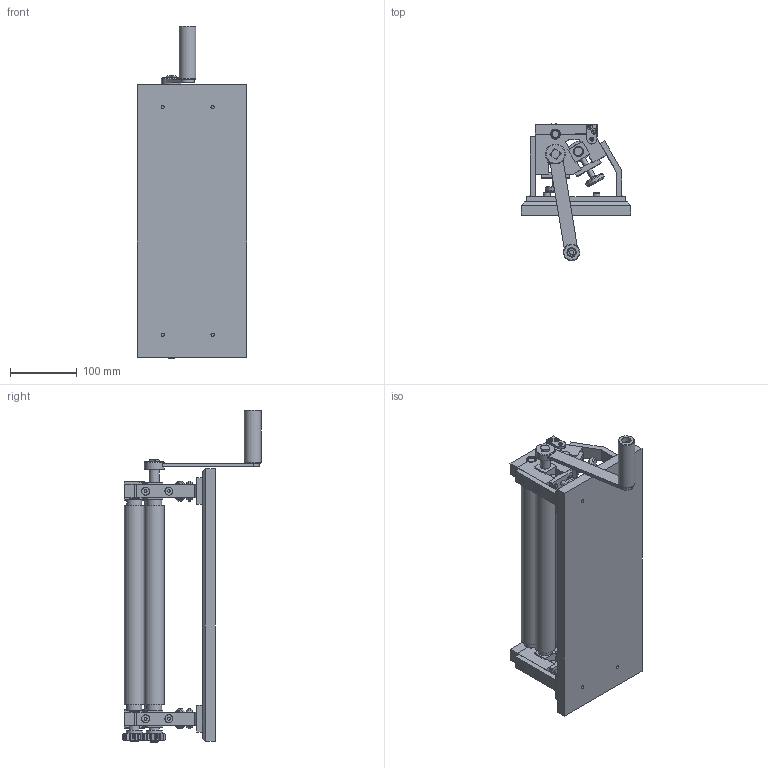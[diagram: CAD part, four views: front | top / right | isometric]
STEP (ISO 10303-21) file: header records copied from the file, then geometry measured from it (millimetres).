
FILE_DESCRIPTION(/* description */ ('PLATE ROLLING MACHINE'),/* implementation_level */ '2;1');
FILE_NAME(/* name */ 'C:\Users\Apardo\Documents\Proyectos\Dietrich\Proyecto 1\PLATE ROLLING MACHINE\STEP\A1 PLATE ROLLING MACHINE.stp',/* time_stamp */ '2020-11-03T20:46:37-04:00',/* author */ ('Apardo'),/* organization */ ('1'),/* preprocessor_version */ 'ST-DEVELOPER v18',/* originating_system */ 'Autodesk Inventor 2020',/* authorisation */ '');
FILE_SCHEMA (('AUTOMOTIVE_DESIGN { 1 0 10303 214 3 1 1 }'));
Length unit declared in the file: millimetre
Products named in the file (31): PLATE ROLLING MACHINE; base plate; CRANK HANDLE; crank handle1; crank handle2; crank handle3; ANSI B18.3.1M - M8x1,25 x 70, DFHSHCS2HM; position; position_1; position 1A; position 1B; position 1C; hinge; hinge seat; hinge seat B; plate; position 2; Part1; pressure screw; rollerA; rollerB; rollerC; bearingA; bearingB; CRADLE; gear; ASME/ANSI B18.3.5M - M5x14(2); ASME/ANSI B18.3.5M - M4x10(2); ANSI B18.3.1M - M6x1 x 20, BSHCSM; IFI 512-C - 6 x 28; ASME/ANSI B18.3.5M - M6x20(2)
Assembly tree (71 placements, depth 3):
  PLATE ROLLING MACHINE
    base plate
    CRANK HANDLE
      crank handle1
      crank handle2
      crank handle3
      ANSI B18.3.1M - M8x1,25 x 70, DFHSHCS2HM
    position  x2
      position_1
      position 1A
      position 1B
      position 1C
    hinge  x2
    hinge seat  x2
    hinge seat B  x2
    plate  x4
    position 2  x2
    Part1  x4
    pressure screw  x4
    rollerA
    rollerB
    rollerC
    bearingA
    bearingB
    CRADLE  x2
    gear  x2
    ASME/ANSI B18.3.5M - M5x14(2)  x10
    ASME/ANSI B18.3.5M - M4x10(2)  x8
    ANSI B18.3.1M - M6x1 x 20, BSHCSM  x6
    IFI 512-C - 6 x 28  x2
    ASME/ANSI B18.3.5M - M6x20(2)  x4
Bounding box: 165 x 207.5 x 499 mm (x, y, z)
Volume: 2532861.8 mm3; surface area: 457582.7 mm2
Topology: 78 solids, 78 shells, 1458 faces, 3947 edges, 2688 vertices
Faces by surface type: plane 823, cylinder 409, cone 188, torus 38
Full cylindrical faces by diameter (mm): 1.35 x6, 3.242 x4, 4 x8, 4.134 x8, 4.2 x8, 4.917 x12, 5 x10, 5.2 x8, 6 x14, 6.02 x6, 6.2 x12, 6.647 x5, 7.8 x8, 8 x5, 8.5 x1, 9.75 x10, 10 x6, 11 x2, 11.7 x4, 12 x3, 12.02 x2, 13 x1, 14 x1, 15 x8, 15.02 x4, 22 x6, 24 x2, 25 x1, 30 x8
Entity records: 18755 total; most frequent: CARTESIAN_POINT 3567, DIRECTION 3075, ORIENTED_EDGE 2826, EDGE_CURVE 1413, AXIS2_PLACEMENT_3D 1153, VERTEX_POINT 975, LINE 769, VECTOR 769
